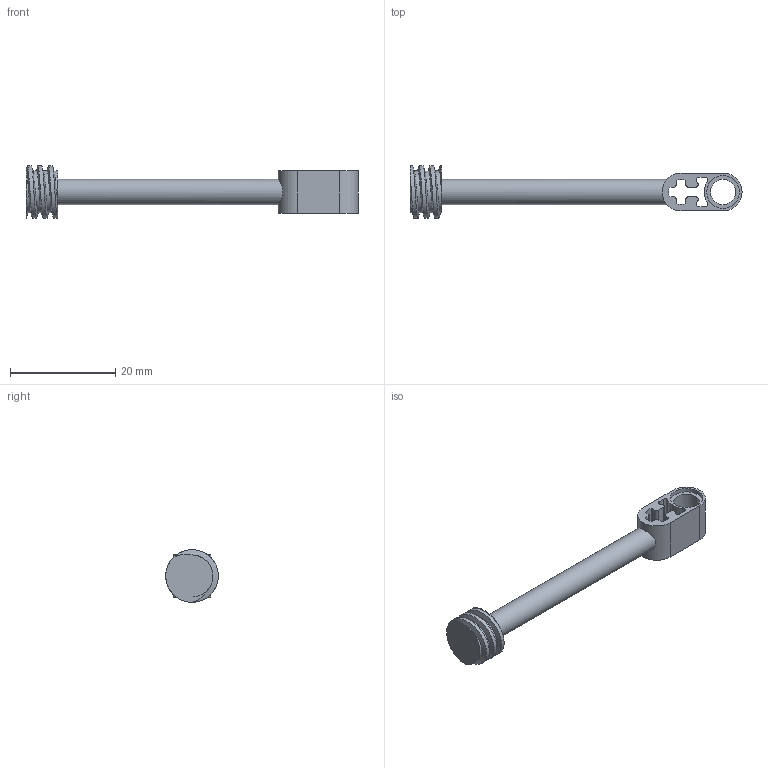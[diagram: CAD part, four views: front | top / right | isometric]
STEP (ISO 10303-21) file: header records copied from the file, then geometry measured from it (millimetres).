
FILE_DESCRIPTION(/* description */ ('Unknown'),/* implementation_level */ '2;1');
FILE_NAME(/* name */ 'Gray_4638507_d)_AVV',/* time_stamp */ '2025-07-22T00:01:21+02:00',/* author */ ('Unknown'),/* organization */ ('Unknown'),/* preprocessor_version */ 'ST-DEVELOPER v19.4',/* originating_system */ 'Solid Edge',/* authorisation */ 'Unknown');
FILE_SCHEMA (('AUTOMOTIVE_DESIGN {1 0 10303 214 3 1 1}'));
Length unit declared in the file: millimetre
Products named in the file (1): Gray_4638507_d)_AVV
Bounding box: 63.2 x 10 x 10 mm (x, y, z)
Volume: 1577.8 mm3; surface area: 1822.2 mm2
Topology: 1 solids, 1 shells, 50 faces, 132 edges, 88 vertices
Faces by surface type: cylinder 30, plane 18, bspline 2
Full cylindrical faces by diameter (mm): 4.8 x2, 6.2 x2
Entity records: 2417 total; most frequent: CARTESIAN_POINT 1121, DIRECTION 276, ORIENTED_EDGE 256, EDGE_CURVE 128, AXIS2_PLACEMENT_3D 108, VERTEX_POINT 88, EDGE_LOOP 62, FACE_BOUND 62
